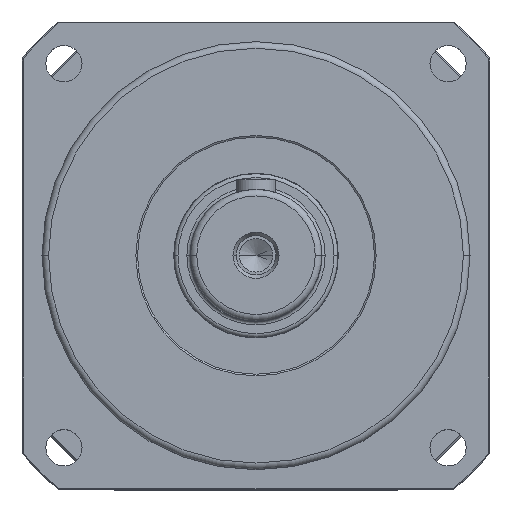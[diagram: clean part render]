
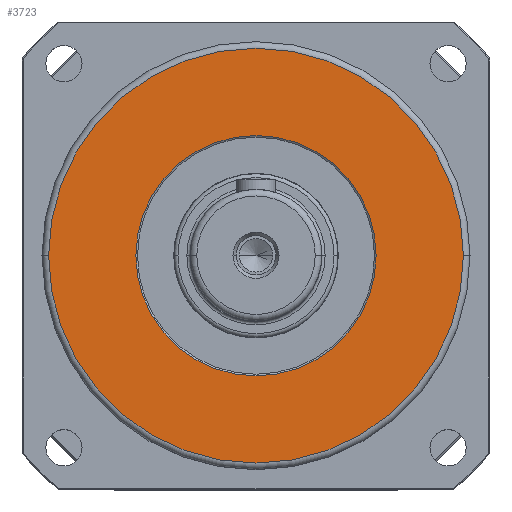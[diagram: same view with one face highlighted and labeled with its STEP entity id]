
A CAD part, top view. The second image highlights one B-rep face of the part: STEP entity #3723.
In plain terms, the highlighted planar face has unit normal (0, 0, 1).
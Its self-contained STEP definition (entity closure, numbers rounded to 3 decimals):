
#428 = CIRCLE ( 'NONE', #431, 63. ) ;
#431 = AXIS2_PLACEMENT_3D ( 'NONE', #1718, #1719, #1720 ) ;
#1718 = CARTESIAN_POINT ( 'NONE',  ( 0., 0., 15. ) ) ;
#1719 = DIRECTION ( 'NONE',  ( 0., 0., 1. ) ) ;
#1720 = DIRECTION ( 'NONE',  ( 1., 0., 0. ) ) ;
#2166 = PLANE ( 'NONE',  #2425 ) ;
#2167 = CARTESIAN_POINT ( 'NONE',  ( 0., 0., 15. ) ) ;
#2168 = DIRECTION ( 'NONE',  ( 0., 0., 1. ) ) ;
#2169 = DIRECTION ( 'NONE',  ( 1., 0., 0. ) ) ;
#2425 = AXIS2_PLACEMENT_3D ( 'NONE', #2167, #2168, #2169 ) ;
#3150 = EDGE_LOOP ( 'NONE', ( #11484, #11486 ) ) ;
#3151 = EDGE_LOOP ( 'NONE', ( #13543, #13542 ) ) ;
#3723 = ADVANCED_FACE ( 'NONE', ( #18590, #18591 ), #2166, .T. ) ;
#4516 = EDGE_CURVE ( 'NONE', #11282, #11283, #9658, .T. ) ;
#4602 = EDGE_CURVE ( 'NONE', #11283, #11282, #10015, .T. ) ;
#8969 = EDGE_CURVE ( 'NONE', #11279, #11278, #18043, .T. ) ;
#9658 = CIRCLE ( 'NONE', #9659, 36.5 ) ;
#9659 = AXIS2_PLACEMENT_3D ( 'NONE', #9746, #9747, #9748 ) ;
#9746 = CARTESIAN_POINT ( 'NONE',  ( 0., 0., 15. ) ) ;
#9747 = DIRECTION ( 'NONE',  ( 0., 0., -1. ) ) ;
#9748 = DIRECTION ( 'NONE',  ( 1., 0., 0. ) ) ;
#10015 = CIRCLE ( 'NONE', #10017, 36.5 ) ;
#10017 = AXIS2_PLACEMENT_3D ( 'NONE', #12040, #12041, #12042 ) ;
#11278 = VERTEX_POINT ( 'NONE', #22557 ) ;
#11279 = VERTEX_POINT ( 'NONE', #22558 ) ;
#11282 = VERTEX_POINT ( 'NONE', #22561 ) ;
#11283 = VERTEX_POINT ( 'NONE', #22562 ) ;
#11484 = ORIENTED_EDGE ( 'NONE', *, *, #4516, .T. ) ;
#11486 = ORIENTED_EDGE ( 'NONE', *, *, #4602, .T. ) ;
#12040 = CARTESIAN_POINT ( 'NONE',  ( 0., 0., 15. ) ) ;
#12041 = DIRECTION ( 'NONE',  ( 0., 0., -1. ) ) ;
#12042 = DIRECTION ( 'NONE',  ( 1., 0., 0. ) ) ;
#13542 = ORIENTED_EDGE ( 'NONE', *, *, #8969, .T. ) ;
#13543 = ORIENTED_EDGE ( 'NONE', *, *, #18911, .T. ) ;
#17951 = CARTESIAN_POINT ( 'NONE',  ( 0., 0., 15. ) ) ;
#17952 = DIRECTION ( 'NONE',  ( 0., 0., 1. ) ) ;
#17953 = DIRECTION ( 'NONE',  ( 1., 0., 0. ) ) ;
#18043 = CIRCLE ( 'NONE', #18045, 63. ) ;
#18045 = AXIS2_PLACEMENT_3D ( 'NONE', #17951, #17952, #17953 ) ;
#18590 = FACE_BOUND ( 'NONE', #3150, .T. ) ;
#18591 = FACE_OUTER_BOUND ( 'NONE', #3151, .T. ) ;
#18911 = EDGE_CURVE ( 'NONE', #11278, #11279, #428, .T. ) ;
#22557 = CARTESIAN_POINT ( 'NONE',  ( 63., 0., 15. ) ) ;
#22558 = CARTESIAN_POINT ( 'NONE',  ( -63., 0., 15. ) ) ;
#22561 = CARTESIAN_POINT ( 'NONE',  ( 36.5, 0., 15. ) ) ;
#22562 = CARTESIAN_POINT ( 'NONE',  ( -36.5, 0., 15. ) ) ;
